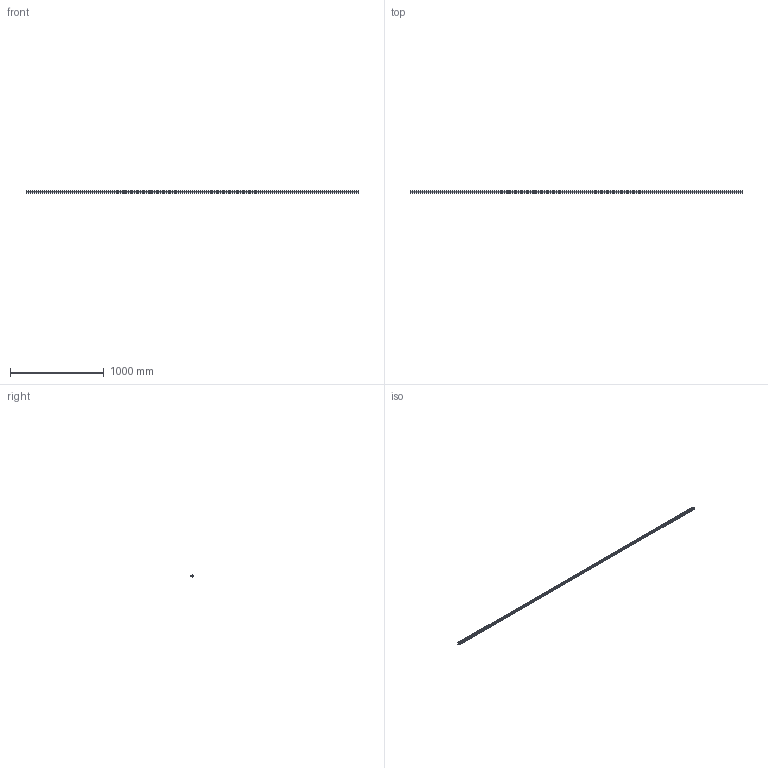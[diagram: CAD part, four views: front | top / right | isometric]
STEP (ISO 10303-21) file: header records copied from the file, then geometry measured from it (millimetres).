
FILE_DESCRIPTION (( 'STEP AP203' ), '1' );
FILE_NAME ('L1018.25R-3540.step', '2023-08-06T10:48:24', ( '' ), ( '' ), 'SwSTEP 2.0', 'SolidWorks 2019', '' );
FILE_SCHEMA (( 'CONFIG_CONTROL_DESIGN' ));
Length unit declared in the file: millimetre
Products named in the file (1): L1018.25R-3540
Bounding box: 3540 x 21.8 x 25 mm (x, y, z)
Volume: 1472243.9 mm3; surface area: 352367.2 mm2
Topology: 1 solids, 1 shells, 560 faces, 1261 edges, 703 vertices
Faces by surface type: cylinder 239, cone 236, plane 85
Entity records: 14804 total; most frequent: DIRECTION 2861, CARTESIAN_POINT 2407, ORIENTED_EDGE 2286, AXIS2_PLACEMENT_3D 1157, EDGE_CURVE 1143, VERTEX_POINT 703, EDGE_LOOP 678, CIRCLE 596
